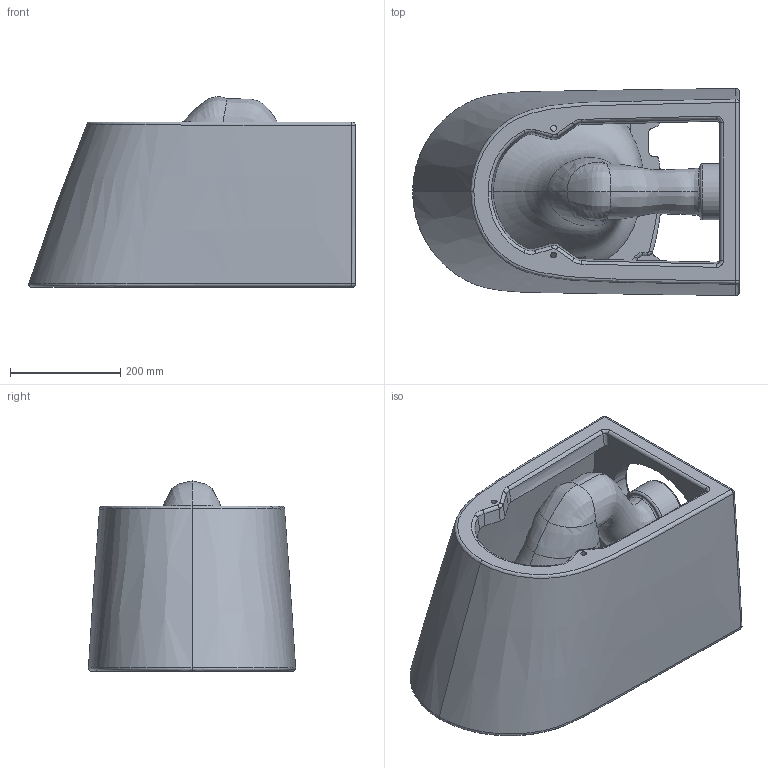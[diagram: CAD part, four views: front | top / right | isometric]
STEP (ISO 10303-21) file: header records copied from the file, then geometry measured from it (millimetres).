
FILE_DESCRIPTION((''),'2;1');
FILE_NAME('YA-CX-20250427','2025-04-27T',('wangst'),(''),'PRO/ENGINEER BY PARAMETRIC TECHNOLOGY CORPORATION, 2011180','PRO/ENGINEER BY PARAMETRIC TECHNOLOGY CORPORATION, 2011180','');
FILE_SCHEMA(('CONFIG_CONTROL_DESIGN'));
Products named in the file (1): YA-CX-20250427
Bounding box: 592.99 x 376.06 x 345.98 mm (x, y, z)
Volume: 12859739.3 mm3; surface area: 1898344.1 mm2
Topology: 1 solids, 1 shells, 316 faces, 802 edges, 491 vertices
Faces by surface type: bspline 103, cylinder 84, plane 63, torus 32, extrusion 14, cone 12, sphere 8
Entity records: 40958 total; most frequent: CARTESIAN_POINT 33999, ORIENTED_EDGE 1604, DIRECTION 1210, EDGE_CURVE 802, VERTEX_POINT 491, AXIS2_PLACEMENT_3D 476, EDGE_LOOP 343, FACE_OUTER_BOUND 316
